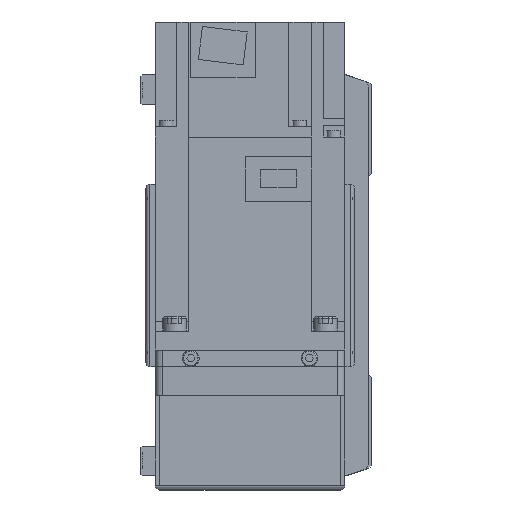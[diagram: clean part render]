
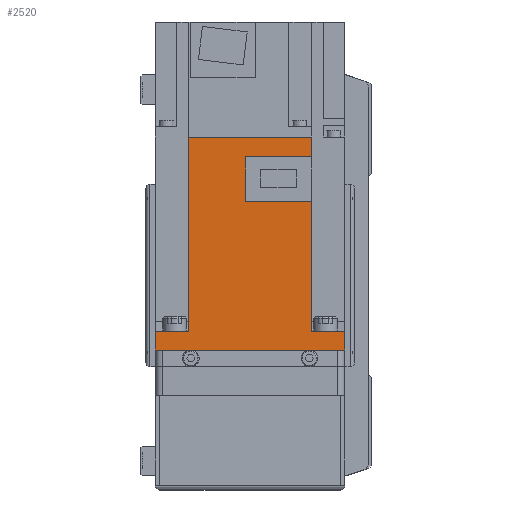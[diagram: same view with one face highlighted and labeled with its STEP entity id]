
A CAD part, left-side view. The second image highlights one B-rep face of the part: STEP entity #2520.
In plain terms, the highlighted planar face has unit normal (-1, 0, 0) as drawn and (1, 0, 0) by its records, which use the part's own axes.
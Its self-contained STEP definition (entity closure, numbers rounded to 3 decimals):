
#2520 = ADVANCED_FACE( '', ( #5555 ), #5556, .F. );
#5555 = FACE_OUTER_BOUND( '', #9049, .T. );
#5556 = PLANE( '', #9050 );
#9049 = EDGE_LOOP( '', ( #16234, #16235, #16236, #16237, #16238, #16239, #16240, #16241, #16242, #16243, #16244, #16245 ) );
#9050 = AXIS2_PLACEMENT_3D( '', #16246, #16247, #16248 );
#16234 = ORIENTED_EDGE( '', *, *, #20410, .F. );
#16235 = ORIENTED_EDGE( '', *, *, #19835, .F. );
#16236 = ORIENTED_EDGE( '', *, *, #20296, .F. );
#16237 = ORIENTED_EDGE( '', *, *, #22596, .T. );
#16238 = ORIENTED_EDGE( '', *, *, #22597, .F. );
#16239 = ORIENTED_EDGE( '', *, *, #21196, .T. );
#16240 = ORIENTED_EDGE( '', *, *, #21833, .T. );
#16241 = ORIENTED_EDGE( '', *, *, #22598, .F. );
#16242 = ORIENTED_EDGE( '', *, *, #20012, .F. );
#16243 = ORIENTED_EDGE( '', *, *, #19837, .F. );
#16244 = ORIENTED_EDGE( '', *, *, #21243, .F. );
#16245 = ORIENTED_EDGE( '', *, *, #20326, .F. );
#16246 = CARTESIAN_POINT( '', ( 40., 89.8, 40. ) );
#16247 = DIRECTION( '', ( -1., 0., 0. ) );
#16248 = DIRECTION( '', ( 0., 0., 1. ) );
#19835 = EDGE_CURVE( '', #23547, #23549, #23550, .T. );
#19837 = EDGE_CURVE( '', #23551, #23553, #23554, .T. );
#20012 = EDGE_CURVE( '', #23553, #23863, #23864, .T. );
#20296 = EDGE_CURVE( '', #24371, #23547, #24373, .T. );
#20326 = EDGE_CURVE( '', #24421, #24422, #24423, .T. );
#20410 = EDGE_CURVE( '', #23549, #24421, #24563, .T. );
#21196 = EDGE_CURVE( '', #25865, #25863, #25866, .T. );
#21243 = EDGE_CURVE( '', #24422, #23551, #25939, .T. );
#21833 = EDGE_CURVE( '', #25863, #26845, #26847, .T. );
#22596 = EDGE_CURVE( '', #24371, #27889, #27890, .T. );
#22597 = EDGE_CURVE( '', #25865, #27889, #27891, .T. );
#22598 = EDGE_CURVE( '', #23863, #26845, #27892, .T. );
#23547 = VERTEX_POINT( '', #29012 );
#23549 = VERTEX_POINT( '', #29015 );
#23550 = LINE( '', #29016, #29017 );
#23551 = VERTEX_POINT( '', #29018 );
#23553 = VERTEX_POINT( '', #29021 );
#23554 = LINE( '', #29022, #29023 );
#23863 = VERTEX_POINT( '', #29437 );
#23864 = LINE( '', #29438, #29439 );
#24371 = VERTEX_POINT( '', #30200 );
#24373 = LINE( '', #30203, #30204 );
#24421 = VERTEX_POINT( '', #30279 );
#24422 = VERTEX_POINT( '', #30280 );
#24423 = LINE( '', #30281, #30282 );
#24563 = LINE( '', #30569, #30570 );
#25863 = VERTEX_POINT( '', #32671 );
#25865 = VERTEX_POINT( '', #32674 );
#25866 = LINE( '', #32675, #32676 );
#25939 = LINE( '', #32778, #32779 );
#26845 = VERTEX_POINT( '', #34077 );
#26847 = LINE( '', #34080, #34081 );
#27889 = VERTEX_POINT( '', #35786 );
#27890 = LINE( '', #35787, #35788 );
#27891 = LINE( '', #35789, #35790 );
#27892 = LINE( '', #35791, #35792 );
#29012 = CARTESIAN_POINT( '', ( 40., 89.8, -25.95 ) );
#29015 = CARTESIAN_POINT( '', ( 40., 81.4, -25.95 ) );
#29016 = CARTESIAN_POINT( '', ( 40., 158., -25.95 ) );
#29017 = VECTOR( '', #37094, 1000. );
#29018 = CARTESIAN_POINT( '', ( 40., 62.8, -25.95 ) );
#29021 = CARTESIAN_POINT( '', ( 40., 8., -25.95 ) );
#29022 = CARTESIAN_POINT( '', ( 40., 158., -25.95 ) );
#29023 = VECTOR( '', #37096, 1000. );
#29437 = CARTESIAN_POINT( '', ( 40., 8., -40. ) );
#29438 = CARTESIAN_POINT( '', ( 40., 8., 40. ) );
#29439 = VECTOR( '', #37316, 1000. );
#30200 = CARTESIAN_POINT( '', ( 40., 89.8, 25.95 ) );
#30203 = CARTESIAN_POINT( '', ( 40., 89.8, 40. ) );
#30204 = VECTOR( '', #37717, 1000. );
#30279 = CARTESIAN_POINT( '', ( 40., 81.4, 1.8 ) );
#30280 = CARTESIAN_POINT( '', ( 40., 62.8, 1.8 ) );
#30281 = CARTESIAN_POINT( '', ( 40., 81.4, 1.8 ) );
#30282 = VECTOR( '', #37753, 1000. );
#30569 = CARTESIAN_POINT( '', ( 40., 81.4, -26. ) );
#30570 = VECTOR( '', #37850, 1000. );
#32671 = CARTESIAN_POINT( '', ( 40., 0., 40. ) );
#32674 = CARTESIAN_POINT( '', ( 40., 8., 40. ) );
#32675 = CARTESIAN_POINT( '', ( 40., 89.8, 40. ) );
#32676 = VECTOR( '', #38818, 1000. );
#32778 = CARTESIAN_POINT( '', ( 40., 62.8, 1.8 ) );
#32779 = VECTOR( '', #38878, 1000. );
#34077 = CARTESIAN_POINT( '', ( 40., 0., -40. ) );
#34080 = CARTESIAN_POINT( '', ( 40., 0., 40. ) );
#34081 = VECTOR( '', #39666, 1000. );
#35786 = CARTESIAN_POINT( '', ( 40., 8., 25.95 ) );
#35787 = CARTESIAN_POINT( '', ( 40., 158., 25.95 ) );
#35788 = VECTOR( '', #40532, 1000. );
#35789 = CARTESIAN_POINT( '', ( 40., 8., 40. ) );
#35790 = VECTOR( '', #40533, 1000. );
#35791 = CARTESIAN_POINT( '', ( 40., 89.8, -40. ) );
#35792 = VECTOR( '', #40534, 1000. );
#37094 = DIRECTION( '', ( 0., -1., 0. ) );
#37096 = DIRECTION( '', ( 0., -1., 0. ) );
#37316 = DIRECTION( '', ( 0., 0., -1. ) );
#37717 = DIRECTION( '', ( 0., 0., -1. ) );
#37753 = DIRECTION( '', ( 0., -1., 0. ) );
#37850 = DIRECTION( '', ( 0., 0., 1. ) );
#38818 = DIRECTION( '', ( 0., -1., 0. ) );
#38878 = DIRECTION( '', ( 0., 0., -1. ) );
#39666 = DIRECTION( '', ( 0., 0., -1. ) );
#40532 = DIRECTION( '', ( 0., -1., 0. ) );
#40533 = DIRECTION( '', ( 0., 0., -1. ) );
#40534 = DIRECTION( '', ( 0., -1., 0. ) );
